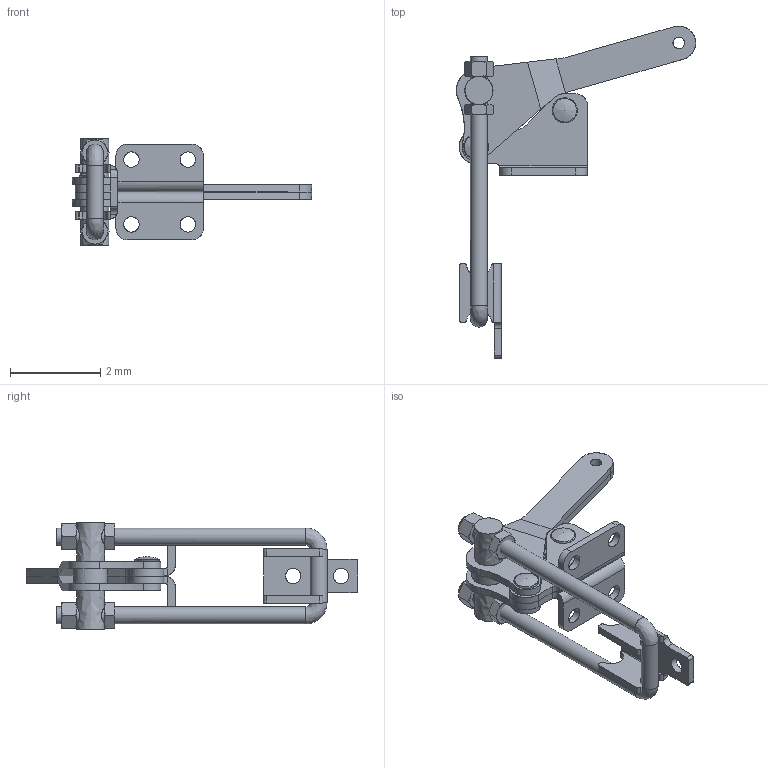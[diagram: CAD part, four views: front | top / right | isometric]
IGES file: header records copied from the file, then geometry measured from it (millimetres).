
Start section:  Autodesk DirectConnect version 7.0.27.0 ---- IGES version 5.3
Global section: file name: C:\Users\Nick\Desktop\PCU-2010\3D\PCU-2010.igs; native system: Autodesk DirectConnect 7.0.27.0; preprocessor: 7.0.27.0; author: Nick; organization: Unknown; date: 20150617.173242; units: millimetre
Bounding box: 5.31 x 7.37 x 2.38 mm (x, y, z)
Surface area: 87.5 mm2 (no closed solid volume)
Topology: 0 solids, 0 shells, 246 faces, 1743 edges, 1737 vertices
Faces by surface type: bspline 246
